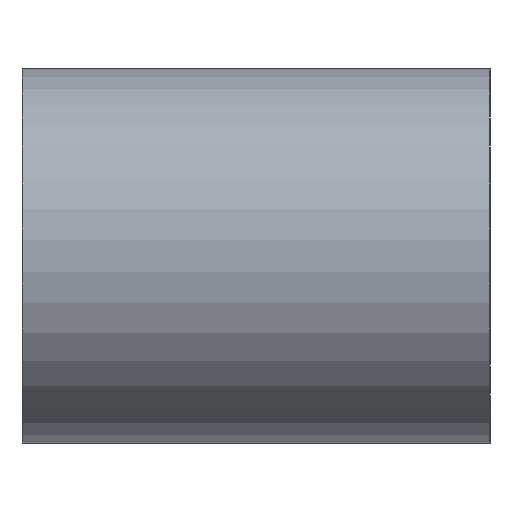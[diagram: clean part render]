
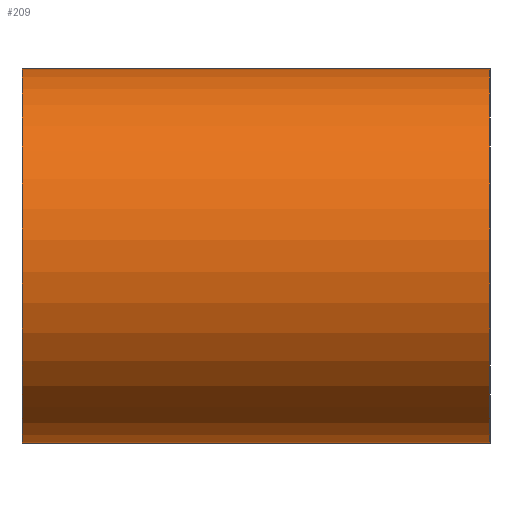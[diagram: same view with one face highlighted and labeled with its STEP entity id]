
A CAD part, left-side view. The second image highlights one B-rep face of the part: STEP entity #209.
In plain terms, the highlighted cylindrical face has radius 8 mm (diameter 16 mm), a partial arc.
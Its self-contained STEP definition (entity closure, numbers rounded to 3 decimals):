
#21 = EDGE_CURVE('',#22,#24,#26,.T.);
#22 = VERTEX_POINT('',#23);
#23 = CARTESIAN_POINT('',(5.292,51.,-6.));
#24 = VERTEX_POINT('',#25);
#25 = CARTESIAN_POINT('',(5.292,51.,6.));
#26 = SURFACE_CURVE('',#27,(#32,#48),.PCURVE_S1.);
#27 = CIRCLE('',#28,8.);
#28 = AXIS2_PLACEMENT_3D('',#29,#30,#31);
#29 = CARTESIAN_POINT('',(0.,51.,0.));
#30 = DIRECTION('',(0.,1.,0.));
#31 = DIRECTION('',(0.661,0.,-0.75));
#32 = PCURVE('',#33,#38);
#33 = PLANE('',#34);
#34 = AXIS2_PLACEMENT_3D('',#35,#36,#37);
#35 = CARTESIAN_POINT('',(37.5,51.,0.));
#36 = DIRECTION('',(-0.,-1.,-0.));
#37 = DIRECTION('',(0.,0.,-1.));
#38 = DEFINITIONAL_REPRESENTATION('',(#39),#47);
#39 = ( BOUNDED_CURVE() B_SPLINE_CURVE(2,(#40,#41,#42,#43,#44,#45,#46),
.UNSPECIFIED.,.T.,.F.) B_SPLINE_CURVE_WITH_KNOTS((1,2,2,2,2,1),(
    -2.094,0.,2.094,4.189,6.283,
8.378),.UNSPECIFIED.) CURVE() GEOMETRIC_REPRESENTATION_ITEM() 
RATIONAL_B_SPLINE_CURVE((1.,0.5,1.,0.5,1.,0.5,1.)) REPRESENTATION_ITEM(
  '') );
#40 = CARTESIAN_POINT('',(6.,-32.208));
#41 = CARTESIAN_POINT('',(15.165,-42.601));
#42 = CARTESIAN_POINT('',(1.583,-45.342));
#43 = CARTESIAN_POINT('',(-12.,-48.083));
#44 = CARTESIAN_POINT('',(-7.583,-34.95));
#45 = CARTESIAN_POINT('',(-3.165,-21.816));
#46 = CARTESIAN_POINT('',(6.,-32.208));
#47 = ( GEOMETRIC_REPRESENTATION_CONTEXT(2) 
PARAMETRIC_REPRESENTATION_CONTEXT() REPRESENTATION_CONTEXT('2D SPACE',''
  ) );
#48 = PCURVE('',#49,#54);
#49 = CYLINDRICAL_SURFACE('',#50,8.);
#50 = AXIS2_PLACEMENT_3D('',#51,#52,#53);
#51 = CARTESIAN_POINT('',(0.,31.,0.));
#52 = DIRECTION('',(0.,-1.,-0.));
#53 = DIRECTION('',(1.,0.,0.));
#54 = DEFINITIONAL_REPRESENTATION('',(#55),#59);
#55 = LINE('',#56,#57);
#56 = CARTESIAN_POINT('',(-0.848,-20.));
#57 = VECTOR('',#58,1.);
#58 = DIRECTION('',(-1.,0.));
#59 = ( GEOMETRIC_REPRESENTATION_CONTEXT(2) 
PARAMETRIC_REPRESENTATION_CONTEXT() REPRESENTATION_CONTEXT('2D SPACE',''
  ) );
#77 = PLANE('',#78);
#78 = AXIS2_PLACEMENT_3D('',#79,#80,#81);
#79 = CARTESIAN_POINT('',(-10.,31.,-6.));
#80 = DIRECTION('',(0.,0.,1.));
#81 = DIRECTION('',(1.,0.,0.));
#136 = PLANE('',#137);
#137 = AXIS2_PLACEMENT_3D('',#138,#139,#140);
#138 = CARTESIAN_POINT('',(-10.,31.,6.));
#139 = DIRECTION('',(0.,0.,1.));
#140 = DIRECTION('',(1.,0.,0.));
#209 = ADVANCED_FACE('',(#210),#49,.T.);
#210 = FACE_BOUND('',#211,.F.);
#211 = EDGE_LOOP('',(#212,#243,#262,#263));
#212 = ORIENTED_EDGE('',*,*,#213,.F.);
#213 = EDGE_CURVE('',#214,#216,#218,.T.);
#214 = VERTEX_POINT('',#215);
#215 = CARTESIAN_POINT('',(5.292,31.,-6.));
#216 = VERTEX_POINT('',#217);
#217 = CARTESIAN_POINT('',(5.292,31.,6.));
#218 = SURFACE_CURVE('',#219,(#224,#231),.PCURVE_S1.);
#219 = CIRCLE('',#220,8.);
#220 = AXIS2_PLACEMENT_3D('',#221,#222,#223);
#221 = CARTESIAN_POINT('',(0.,31.,0.));
#222 = DIRECTION('',(0.,1.,0.));
#223 = DIRECTION('',(0.661,0.,-0.75));
#224 = PCURVE('',#49,#225);
#225 = DEFINITIONAL_REPRESENTATION('',(#226),#230);
#226 = LINE('',#227,#228);
#227 = CARTESIAN_POINT('',(-0.848,0.));
#228 = VECTOR('',#229,1.);
#229 = DIRECTION('',(-1.,0.));
#230 = ( GEOMETRIC_REPRESENTATION_CONTEXT(2) 
PARAMETRIC_REPRESENTATION_CONTEXT() REPRESENTATION_CONTEXT('2D SPACE',''
  ) );
#231 = PCURVE('',#232,#237);
#232 = PLANE('',#233);
#233 = AXIS2_PLACEMENT_3D('',#234,#235,#236);
#234 = CARTESIAN_POINT('',(0.,31.,0.)
  );
#235 = DIRECTION('',(0.,1.,0.));
#236 = DIRECTION('',(0.,-0.,1.));
#237 = DEFINITIONAL_REPRESENTATION('',(#238),#242);
#238 = CIRCLE('',#239,8.);
#239 = AXIS2_PLACEMENT_2D('',#240,#241);
#240 = CARTESIAN_POINT('',(0.,0.));
#241 = DIRECTION('',(-0.75,0.661));
#242 = ( GEOMETRIC_REPRESENTATION_CONTEXT(2) 
PARAMETRIC_REPRESENTATION_CONTEXT() REPRESENTATION_CONTEXT('2D SPACE',''
  ) );
#243 = ORIENTED_EDGE('',*,*,#244,.F.);
#244 = EDGE_CURVE('',#22,#214,#245,.T.);
#245 = SURFACE_CURVE('',#246,(#250,#256),.PCURVE_S1.);
#246 = LINE('',#247,#248);
#247 = CARTESIAN_POINT('',(5.292,31.,-6.));
#248 = VECTOR('',#249,1.);
#249 = DIRECTION('',(0.,-1.,-0.));
#250 = PCURVE('',#49,#251);
#251 = DEFINITIONAL_REPRESENTATION('',(#252),#255);
#252 = B_SPLINE_CURVE_WITH_KNOTS('',1,(#253,#254),.UNSPECIFIED.,.F.,.F.,
  (2,2),(-20.,0.),.PIECEWISE_BEZIER_KNOTS.);
#253 = CARTESIAN_POINT('',(-0.848,-20.));
#254 = CARTESIAN_POINT('',(-0.848,0.));
#255 = ( GEOMETRIC_REPRESENTATION_CONTEXT(2) 
PARAMETRIC_REPRESENTATION_CONTEXT() REPRESENTATION_CONTEXT('2D SPACE',''
  ) );
#256 = PCURVE('',#77,#257);
#257 = DEFINITIONAL_REPRESENTATION('',(#258),#261);
#258 = B_SPLINE_CURVE_WITH_KNOTS('',1,(#259,#260),.UNSPECIFIED.,.F.,.F.,
  (2,2),(-20.,0.),.PIECEWISE_BEZIER_KNOTS.);
#259 = CARTESIAN_POINT('',(15.292,20.));
#260 = CARTESIAN_POINT('',(15.292,0.));
#261 = ( GEOMETRIC_REPRESENTATION_CONTEXT(2) 
PARAMETRIC_REPRESENTATION_CONTEXT() REPRESENTATION_CONTEXT('2D SPACE',''
  ) );
#262 = ORIENTED_EDGE('',*,*,#21,.T.);
#263 = ORIENTED_EDGE('',*,*,#264,.T.);
#264 = EDGE_CURVE('',#24,#216,#265,.T.);
#265 = SURFACE_CURVE('',#266,(#270,#276),.PCURVE_S1.);
#266 = LINE('',#267,#268);
#267 = CARTESIAN_POINT('',(5.292,31.,6.));
#268 = VECTOR('',#269,1.);
#269 = DIRECTION('',(0.,-1.,-0.));
#270 = PCURVE('',#49,#271);
#271 = DEFINITIONAL_REPRESENTATION('',(#272),#275);
#272 = B_SPLINE_CURVE_WITH_KNOTS('',1,(#273,#274),.UNSPECIFIED.,.F.,.F.,
  (2,2),(-20.,0.),.PIECEWISE_BEZIER_KNOTS.);
#273 = CARTESIAN_POINT('',(-5.435,-20.));
#274 = CARTESIAN_POINT('',(-5.435,0.));
#275 = ( GEOMETRIC_REPRESENTATION_CONTEXT(2) 
PARAMETRIC_REPRESENTATION_CONTEXT() REPRESENTATION_CONTEXT('2D SPACE',''
  ) );
#276 = PCURVE('',#136,#277);
#277 = DEFINITIONAL_REPRESENTATION('',(#278),#281);
#278 = B_SPLINE_CURVE_WITH_KNOTS('',1,(#279,#280),.UNSPECIFIED.,.F.,.F.,
  (2,2),(-20.,0.),.PIECEWISE_BEZIER_KNOTS.);
#279 = CARTESIAN_POINT('',(15.292,20.));
#280 = CARTESIAN_POINT('',(15.292,0.));
#281 = ( GEOMETRIC_REPRESENTATION_CONTEXT(2) 
PARAMETRIC_REPRESENTATION_CONTEXT() REPRESENTATION_CONTEXT('2D SPACE',''
  ) );
